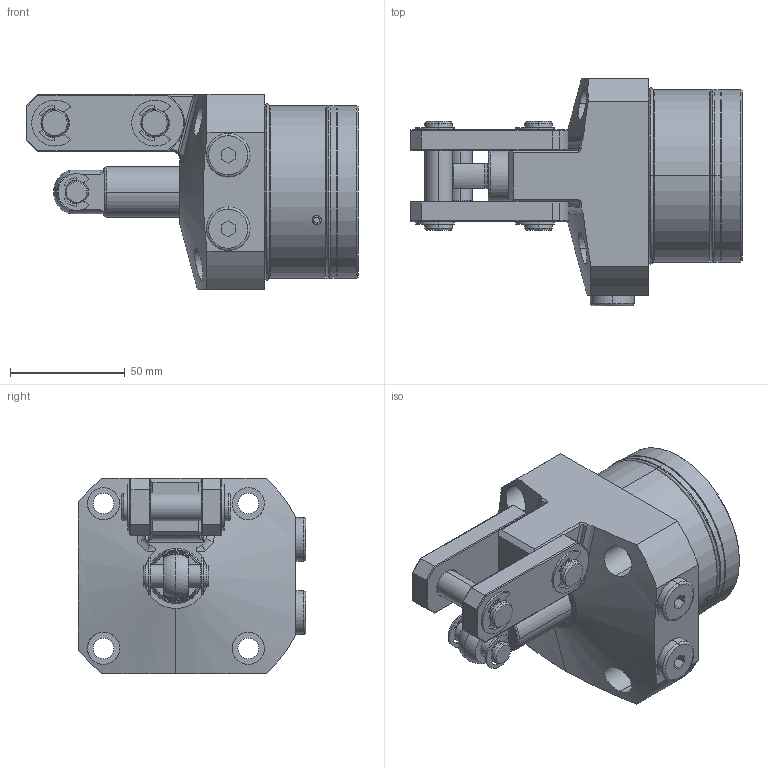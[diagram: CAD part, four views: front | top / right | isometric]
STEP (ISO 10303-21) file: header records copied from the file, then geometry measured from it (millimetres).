
FILE_DESCRIPTION(/* description */ (''),/* implementation_level */ '2;1');
FILE_NAME(/* name */ 'KTPW75-RJ.stp',/* time_stamp */ '2022-11-20T08:50:45+08:00',/* author */ (''),/* organization */ (''),/* preprocessor_version */ 'ST-DEVELOPER v16.7',/* originating_system */ 'SIEMENS PLM Software NX 12.0',/* authorisation */ '');
FILE_SCHEMA (('AP203_CONFIGURATION_CONTROLLED_3D_DESIGN_OF_MECHANICAL_PARTS_AND_ASSEMBLIES_MIM_LF { 1 0 10303 403 2 1 2}'));
Length unit declared in the file: millimetre
Products named in the file (11): KTPW75-RJ-09; KTPW75-RJ-010; KTPW75-RJ-01; KTPW75-RJ-04; KTPW75-RJ-06; KTPW75-RJ-07; KTPW75-RJ-08; KTPW75-RJ-05; KTPW75-RJ-02; KTPW75-RJ-03; LKW0751-CRJ_step
Assembly tree (18 placements, depth 2):
  LKW0751-CRJ_step
    KTPW75-RJ-03
    KTPW75-RJ-02
    KTPW75-RJ-05  x2
    KTPW75-RJ-08  x2
    KTPW75-RJ-07  x4
    KTPW75-RJ-06
    KTPW75-RJ-04  x2
    KTPW75-RJ-01
    KTPW75-RJ-010  x2
    KTPW75-RJ-09  x2
Bounding box: 144.5 x 99 x 85 mm (x, y, z)
Volume: 468422.3 mm3; surface area: 81456.3 mm2
Topology: 20 solids, 20 shells, 645 faces, 1501 edges, 931 vertices
Faces by surface type: cylinder 280, plane 166, torus 114, cone 73, bspline 10, sphere 2
Full cylindrical faces by diameter (mm): 75 x1
Entity records: 13467 total; most frequent: CARTESIAN_POINT 2935, DIRECTION 2074, ORIENTED_EDGE 1768, EDGE_CURVE 884, AXIS2_PLACEMENT_3D 872, VERTEX_POINT 544, CIRCLE 471, EDGE_LOOP 442
